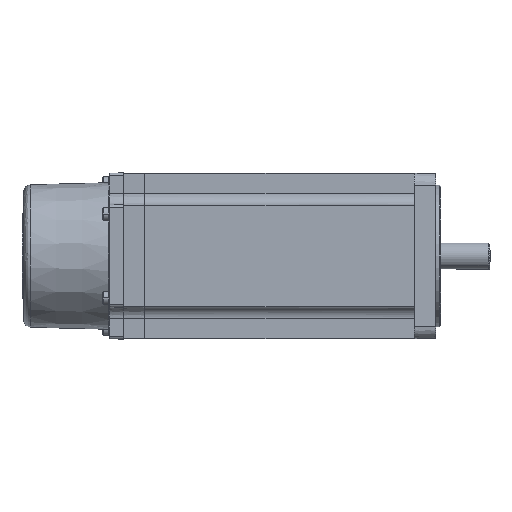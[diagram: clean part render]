
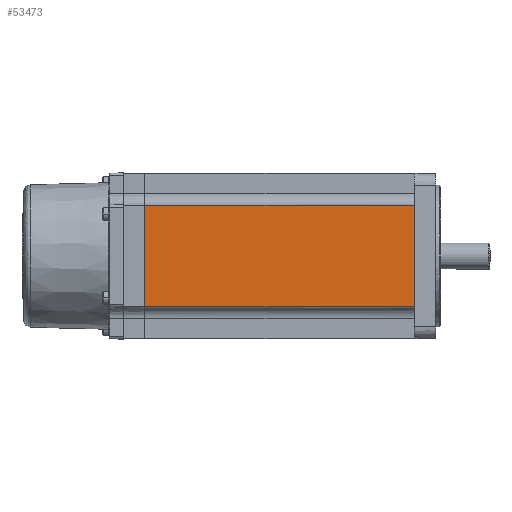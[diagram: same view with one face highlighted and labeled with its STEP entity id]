
A CAD part, front view. The second image highlights one B-rep face of the part: STEP entity #53473.
In plain terms, the highlighted planar face has unit normal (0, -1, 0) as drawn and (0, 1, 0) by its records, which use the part's own axes.
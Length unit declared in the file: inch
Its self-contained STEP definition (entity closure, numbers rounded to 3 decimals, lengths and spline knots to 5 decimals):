
#7 = CARTESIAN_POINT ( 'NONE',  ( -0.84711, 1.37795, 4.6063 ) ) ;
#3558 = DIRECTION ( 'NONE',  ( 1., 0., 0. ) ) ;
#9606 = VECTOR ( 'NONE', #90806, 39.37008 ) ;
#11738 = DIRECTION ( 'NONE',  ( 1., 0., 0. ) ) ;
#11784 = LINE ( 'NONE', #83352, #42069 ) ;
#18614 = CARTESIAN_POINT ( 'NONE',  ( -0.84711, 1.37795, 3.22835 ) ) ;
#32112 = ORIENTED_EDGE ( 'NONE', *, *, #73069, .F. ) ;
#40078 = DIRECTION ( 'NONE',  ( 0., 1., 0. ) ) ;
#42069 = VECTOR ( 'NONE', #3558, 39.37008 ) ;
#47562 = VERTEX_POINT ( 'NONE', #127686 ) ;
#50998 = PLANE ( 'NONE',  #92880 ) ;
#53200 = ORIENTED_EDGE ( 'NONE', *, *, #54045, .T. ) ;
#53473 = ADVANCED_FACE ( 'NONE', ( #69122 ), #50998, .T. ) ;
#54045 = EDGE_CURVE ( 'NONE', #67285, #68405, #11784, .T. ) ;
#59879 = EDGE_CURVE ( 'NONE', #115818, #68405, #111163, .T. ) ;
#67285 = VERTEX_POINT ( 'NONE', #18614 ) ;
#68405 = VERTEX_POINT ( 'NONE', #94948 ) ;
#69122 = FACE_OUTER_BOUND ( 'NONE', #126760, .T. ) ;
#73069 = EDGE_CURVE ( 'NONE', #47562, #115818, #145323, .T. ) ;
#83352 = CARTESIAN_POINT ( 'NONE',  ( -1.37795, 1.37795, 3.22835 ) ) ;
#90806 = DIRECTION ( 'NONE',  ( 0., 0., -1. ) ) ;
#92033 = DIRECTION ( 'NONE',  ( 0., 0., 1. ) ) ;
#92880 = AXIS2_PLACEMENT_3D ( 'NONE', #108448, #40078, #119890 ) ;
#94948 = CARTESIAN_POINT ( 'NONE',  ( 0.84711, 1.37795, 3.22835 ) ) ;
#95770 = CARTESIAN_POINT ( 'NONE',  ( 0.84711, 1.37795, -1.25984 ) ) ;
#97059 = LINE ( 'NONE', #7, #9606 ) ;
#98947 = ORIENTED_EDGE ( 'NONE', *, *, #135842, .F. ) ;
#104047 = CARTESIAN_POINT ( 'NONE',  ( 0.84711, 1.37795, -1.25984 ) ) ;
#108448 = CARTESIAN_POINT ( 'NONE',  ( -1.37795, 1.37795, 3.22835 ) ) ;
#110986 = ORIENTED_EDGE ( 'NONE', *, *, #59879, .F. ) ;
#111163 = LINE ( 'NONE', #104047, #141449 ) ;
#114433 = CARTESIAN_POINT ( 'NONE',  ( -1.37795, 1.37795, -1.25984 ) ) ;
#115079 = VECTOR ( 'NONE', #11738, 39.37008 ) ;
#115818 = VERTEX_POINT ( 'NONE', #95770 ) ;
#119890 = DIRECTION ( 'NONE',  ( 0., 0., 1. ) ) ;
#126760 = EDGE_LOOP ( 'NONE', ( #110986, #32112, #98947, #53200 ) ) ;
#127686 = CARTESIAN_POINT ( 'NONE',  ( -0.84711, 1.37795, -1.25984 ) ) ;
#135842 = EDGE_CURVE ( 'NONE', #67285, #47562, #97059, .T. ) ;
#141449 = VECTOR ( 'NONE', #92033, 39.37008 ) ;
#145323 = LINE ( 'NONE', #114433, #115079 ) ;
